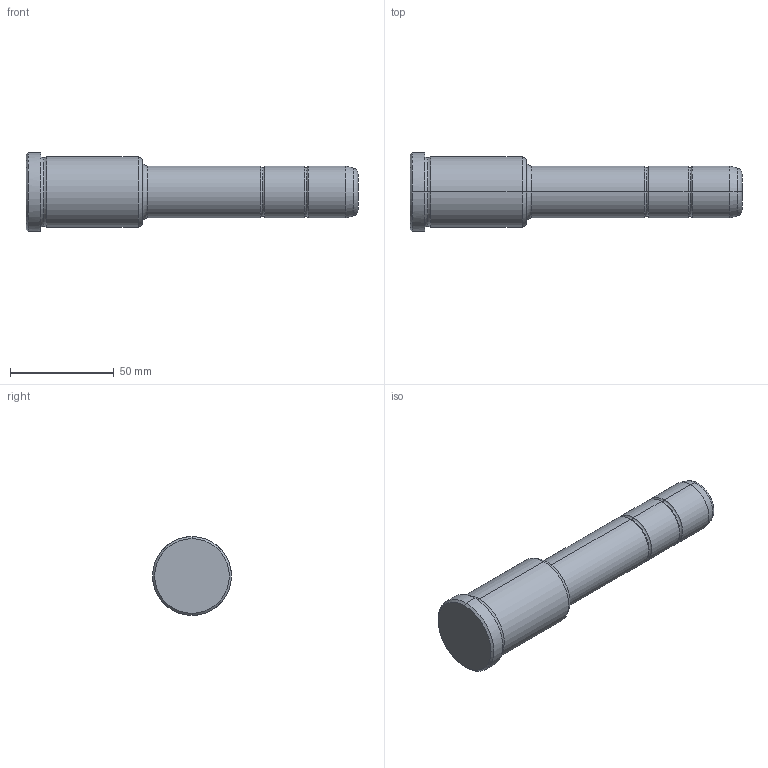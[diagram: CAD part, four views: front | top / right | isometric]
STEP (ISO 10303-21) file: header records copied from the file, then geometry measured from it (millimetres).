
FILE_DESCRIPTION(('CATIA V5 STEP Exchange'),'2;1');
FILE_NAME('C:\Users\Utente\Desktop\IO LAVORO\3D X SITO CF\X SITO\PLASTICA\351\351-25X56X160.stp','2021-09-07T10:17:54+00:00',('none'),('none'),'CATIA Version 5 Release 20 GA (IN-10)','CATIA V5 STEP AP203','none');
FILE_SCHEMA(('CONFIG_CONTROL_DESIGN'));
Length unit declared in the file: millimetre
Products named in the file (1): 351-25X56X160
Bounding box: 160 x 38 x 38 mm (x, y, z)
Volume: 102688.7 mm3; surface area: 16195.9 mm2
Topology: 1 solids, 1 shells, 36 faces, 102 edges, 70 vertices
Faces by surface type: torus 16, cylinder 10, cone 6, plane 4
Entity records: 1292 total; most frequent: CARTESIAN_POINT 321, ORIENTED_EDGE 204, DIRECTION 166, AXIS2_PLACEMENT_3D 115, EDGE_CURVE 102, CIRCLE 78, VERTEX_POINT 70, EDGE_LOOP 38
